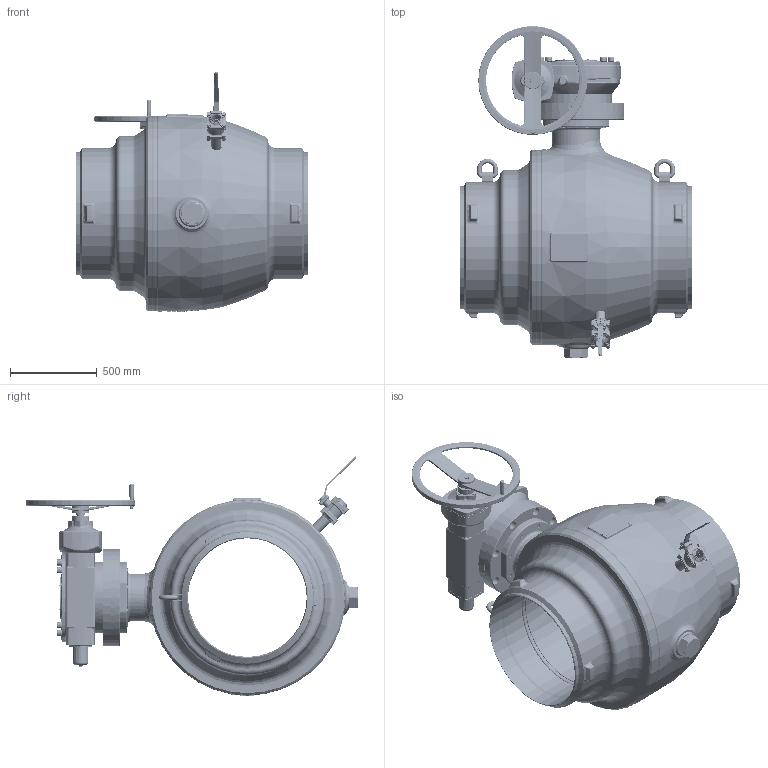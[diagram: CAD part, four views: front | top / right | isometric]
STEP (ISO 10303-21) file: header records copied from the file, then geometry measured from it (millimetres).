
FILE_DESCRIPTION((''),'2;1');
FILE_NAME('ASM0001_ASM','2026-01-28T11:28:11',('schwaba'),('KLINGER'),'CREO PARAMETRIC BY PTC INC, 2023014','CREO PARAMETRIC BY PTC INC, 2023014','');
FILE_SCHEMA(('CONFIG_CONTROL_DESIGN'));
Products named in the file (3): KHSVI_700_FR_WE_ENTL; GS250_411_F35_AHR630_DN800; ASM0001_ASM
Assembly tree (2 placements, depth 2):
  ASM0001_ASM
    KHSVI_700_FR_WE_ENTL
    GS250_411_F35_AHR630_DN800
Bounding box: 1346 x 1918 x 1387.91 mm (x, y, z)
Volume: 408200336.4 mm3; surface area: 20161065.2 mm2
Topology: 6 solids, 9 shells, 5117 faces, 12231 edges, 7273 vertices
Faces by surface type: plane 1503, cylinder 1383, torus 747, cone 686, bspline 658, sphere 101, revolution 31, extrusion 8
Entity records: 297439 total; most frequent: CARTESIAN_POINT 184538, ORIENTED_EDGE 24288, DIRECTION 22913, EDGE_CURVE 12144, AXIS2_PLACEMENT_3D 9543, VERTEX_POINT 7273, EDGE_LOOP 5483, FACE_OUTER_BOUND 5117
